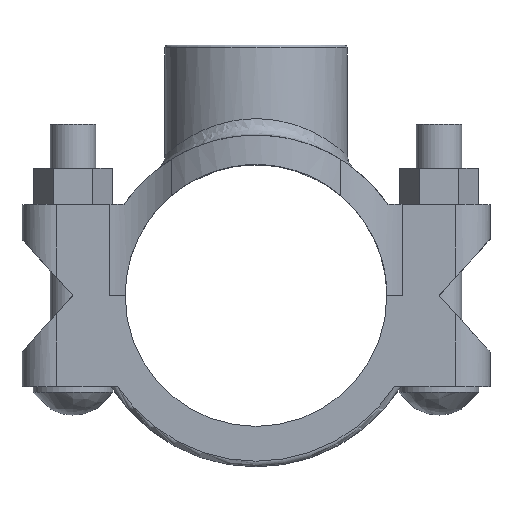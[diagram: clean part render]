
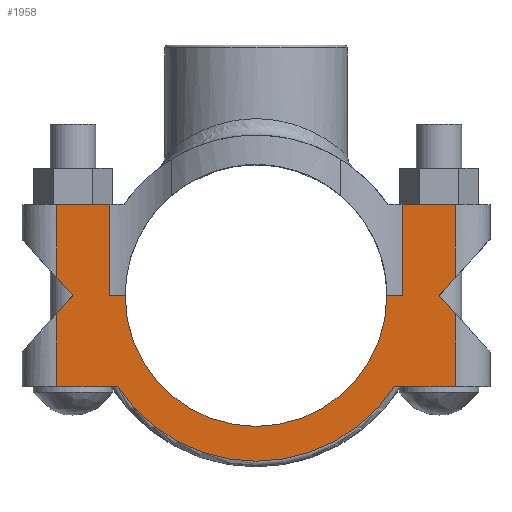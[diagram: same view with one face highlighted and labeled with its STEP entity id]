
A CAD part, top view. The second image highlights one B-rep face of the part: STEP entity #1958.
In plain terms, the highlighted planar face has unit normal (0, 0, 1).
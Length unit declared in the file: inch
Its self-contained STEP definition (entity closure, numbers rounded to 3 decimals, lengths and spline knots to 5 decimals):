
#109=PLANE('',#2148);
#166=LINE('',#3040,#318);
#172=LINE('',#3227,#324);
#215=LINE('',#3433,#367);
#228=LINE('',#3470,#380);
#235=LINE('',#3586,#387);
#239=LINE('',#3599,#391);
#244=LINE('',#3610,#396);
#245=LINE('',#3612,#397);
#254=LINE('',#3636,#406);
#255=LINE('',#3640,#407);
#256=LINE('',#3643,#408);
#257=LINE('',#3644,#409);
#258=LINE('',#3646,#410);
#259=LINE('',#3647,#411);
#260=LINE('',#3649,#412);
#261=LINE('',#3650,#413);
#318=VECTOR('',#2311,0.3937);
#324=VECTOR('',#2359,0.3937);
#367=VECTOR('',#2504,0.3937);
#380=VECTOR('',#2541,0.3937);
#387=VECTOR('',#2556,0.3937);
#391=VECTOR('',#2568,0.3937);
#396=VECTOR('',#2581,0.3937);
#397=VECTOR('',#2584,0.3937);
#406=VECTOR('',#2611,0.3937);
#407=VECTOR('',#2616,0.3937);
#408=VECTOR('',#2619,0.3937);
#409=VECTOR('',#2620,0.3937);
#410=VECTOR('',#2621,0.3937);
#411=VECTOR('',#2622,0.3937);
#412=VECTOR('',#2623,0.3937);
#413=VECTOR('',#2624,0.3937);
#502=FACE_OUTER_BOUND('',#606,.T.);
#606=EDGE_LOOP('',(#1592,#1593,#1594,#1595,#1596,#1597,#1598,#1599,#1600,
#1601,#1602,#1603,#1604,#1605,#1606,#1607,#1608,#1609));
#694=CIRCLE('',#2126,1.4375);
#702=CIRCLE('',#2149,1.82);
#794=VERTEX_POINT('',#3037);
#795=VERTEX_POINT('',#3039);
#810=VERTEX_POINT('',#3224);
#811=VERTEX_POINT('',#3226);
#861=VERTEX_POINT('',#3430);
#862=VERTEX_POINT('',#3432);
#873=VERTEX_POINT('',#3467);
#874=VERTEX_POINT('',#3469);
#877=VERTEX_POINT('',#3476);
#882=VERTEX_POINT('',#3529);
#887=VERTEX_POINT('',#3585);
#892=VERTEX_POINT('',#3597);
#894=VERTEX_POINT('',#3608);
#900=VERTEX_POINT('',#3635);
#901=VERTEX_POINT('',#3639);
#902=VERTEX_POINT('',#3641);
#903=VERTEX_POINT('',#3645);
#904=VERTEX_POINT('',#3648);
#993=EDGE_CURVE('',#795,#794,#166,.T.);
#1016=EDGE_CURVE('',#811,#810,#172,.T.);
#1089=EDGE_CURVE('',#862,#861,#215,.T.);
#1108=EDGE_CURVE('',#874,#873,#228,.T.);
#1117=EDGE_CURVE('',#877,#882,#694,.T.);
#1123=EDGE_CURVE('',#887,#874,#235,.T.);
#1130=EDGE_CURVE('',#861,#892,#239,.T.);
#1136=EDGE_CURVE('',#894,#794,#244,.T.);
#1137=EDGE_CURVE('',#877,#894,#245,.T.);
#1149=EDGE_CURVE('',#887,#900,#254,.T.);
#1151=EDGE_CURVE('',#901,#892,#255,.T.);
#1152=EDGE_CURVE('',#901,#902,#702,.T.);
#1153=EDGE_CURVE('',#900,#902,#256,.T.);
#1154=EDGE_CURVE('',#873,#795,#257,.T.);
#1155=EDGE_CURVE('',#903,#882,#258,.T.);
#1156=EDGE_CURVE('',#903,#811,#259,.T.);
#1157=EDGE_CURVE('',#904,#810,#260,.T.);
#1158=EDGE_CURVE('',#904,#862,#261,.T.);
#1592=ORIENTED_EDGE('',*,*,#1089,.T.);
#1593=ORIENTED_EDGE('',*,*,#1130,.T.);
#1594=ORIENTED_EDGE('',*,*,#1151,.F.);
#1595=ORIENTED_EDGE('',*,*,#1152,.T.);
#1596=ORIENTED_EDGE('',*,*,#1153,.F.);
#1597=ORIENTED_EDGE('',*,*,#1149,.F.);
#1598=ORIENTED_EDGE('',*,*,#1123,.T.);
#1599=ORIENTED_EDGE('',*,*,#1108,.T.);
#1600=ORIENTED_EDGE('',*,*,#1154,.T.);
#1601=ORIENTED_EDGE('',*,*,#993,.T.);
#1602=ORIENTED_EDGE('',*,*,#1136,.F.);
#1603=ORIENTED_EDGE('',*,*,#1137,.F.);
#1604=ORIENTED_EDGE('',*,*,#1117,.T.);
#1605=ORIENTED_EDGE('',*,*,#1155,.F.);
#1606=ORIENTED_EDGE('',*,*,#1156,.T.);
#1607=ORIENTED_EDGE('',*,*,#1016,.T.);
#1608=ORIENTED_EDGE('',*,*,#1157,.F.);
#1609=ORIENTED_EDGE('',*,*,#1158,.T.);
#1958=ADVANCED_FACE('',(#502),#109,.T.);
#2126=AXIS2_PLACEMENT_3D('',#3531,#2549,#2550);
#2148=AXIS2_PLACEMENT_3D('',#3638,#2614,#2615);
#2149=AXIS2_PLACEMENT_3D('',#3642,#2617,#2618);
#2311=DIRECTION('',(-1.,0.,0.));
#2359=DIRECTION('',(-1.,0.,0.));
#2504=DIRECTION('',(-0.67,-0.742,0.));
#2541=DIRECTION('',(0.67,0.742,0.));
#2549=DIRECTION('center_axis',(0.,0.,-1.));
#2550=DIRECTION('ref_axis',(-1.,0.,0.));
#2556=DIRECTION('',(-0.67,0.742,0.));
#2568=DIRECTION('',(0.,-1.,0.));
#2581=DIRECTION('',(0.,1.,0.));
#2584=DIRECTION('',(1.,0.,0.));
#2611=DIRECTION('',(0.,-1.,0.));
#2614=DIRECTION('center_axis',(0.,0.,1.));
#2615=DIRECTION('ref_axis',(1.,0.,0.));
#2616=DIRECTION('',(-1.,0.,0.));
#2617=DIRECTION('center_axis',(0.,0.,1.));
#2618=DIRECTION('ref_axis',(-1.,0.,0.));
#2619=DIRECTION('',(-1.,0.,0.));
#2620=DIRECTION('',(0.,1.,0.));
#2621=DIRECTION('',(1.,0.,0.));
#2622=DIRECTION('',(0.,1.,0.));
#2623=DIRECTION('',(0.,1.,0.));
#2624=DIRECTION('',(0.67,-0.742,0.));
#3037=CARTESIAN_POINT('',(1.60565,1.,0.75));
#3039=CARTESIAN_POINT('',(2.19,1.,0.75));
#3040=CARTESIAN_POINT('',(1.52698,1.,0.75));
#3224=CARTESIAN_POINT('',(-2.19,1.,0.75));
#3226=CARTESIAN_POINT('',(-1.60565,1.,0.75));
#3227=CARTESIAN_POINT('',(-2.38,1.,0.75));
#3430=CARTESIAN_POINT('',(-2.19,-0.19929,0.75));
#3432=CARTESIAN_POINT('',(-2.01,0.,0.75));
#3433=CARTESIAN_POINT('',(-1.47777,0.58925,0.75));
#3467=CARTESIAN_POINT('',(2.19,0.19929,0.75));
#3469=CARTESIAN_POINT('',(2.01,0.,0.75));
#3470=CARTESIAN_POINT('',(2.19917,0.20943,0.75));
#3476=CARTESIAN_POINT('',(1.4375,0.,0.75));
#3529=CARTESIAN_POINT('',(-1.4375,0.,0.75));
#3531=CARTESIAN_POINT('Origin',(0.,0.,0.75));
#3585=CARTESIAN_POINT('',(2.19,-0.19929,0.75));
#3586=CARTESIAN_POINT('',(1.91917,0.10057,0.75));
#3597=CARTESIAN_POINT('',(-2.19,-1.,0.75));
#3599=CARTESIAN_POINT('',(-2.19,0.,0.75));
#3608=CARTESIAN_POINT('',(1.60565,0.,0.75));
#3610=CARTESIAN_POINT('',(1.60565,0.,0.75));
#3612=CARTESIAN_POINT('',(1.095,0.,0.75));
#3635=CARTESIAN_POINT('',(2.19,-1.,0.75));
#3636=CARTESIAN_POINT('',(2.19,0.,0.75));
#3638=CARTESIAN_POINT('Origin',(1.60565,0.,0.75));
#3639=CARTESIAN_POINT('',(-1.52066,-1.,0.75));
#3640=CARTESIAN_POINT('',(-2.19,-1.,0.75));
#3641=CARTESIAN_POINT('',(1.52066,-1.,0.75));
#3642=CARTESIAN_POINT('Origin',(0.,0.,
0.75));
#3643=CARTESIAN_POINT('',(-2.19,-1.,0.75));
#3644=CARTESIAN_POINT('',(2.19,0.,0.75));
#3645=CARTESIAN_POINT('',(-1.60565,0.,0.75));
#3646=CARTESIAN_POINT('',(1.095,0.,0.75));
#3647=CARTESIAN_POINT('',(-1.60565,0.,0.75));
#3648=CARTESIAN_POINT('',(-2.19,0.19929,0.75));
#3649=CARTESIAN_POINT('',(-2.19,0.,0.75));
#3650=CARTESIAN_POINT('',(-2.05044,0.04477,0.75));
